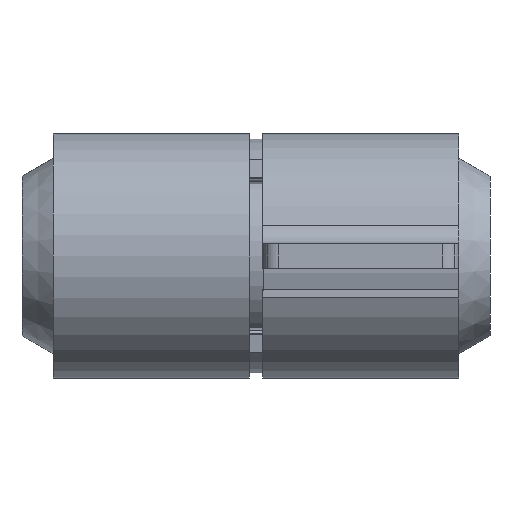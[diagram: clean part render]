
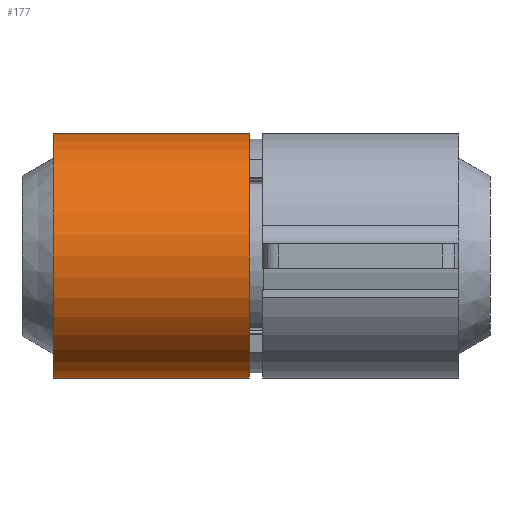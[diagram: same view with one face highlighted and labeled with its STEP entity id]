
A CAD part, front view. The second image highlights one B-rep face of the part: STEP entity #177.
In plain terms, the highlighted cylindrical face has radius 5.963 mm (diameter 11.925 mm), a partial arc.
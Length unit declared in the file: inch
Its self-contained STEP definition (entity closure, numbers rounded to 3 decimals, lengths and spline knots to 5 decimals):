
#177=ADVANCED_FACE('',(#388),#389,.T.);
#388=FACE_OUTER_BOUND('',#651,.T.);
#389=CYLINDRICAL_SURFACE('',#652,0.23474);
#651=EDGE_LOOP('',(#1054,#1055,#1056,#1057));
#652=AXIS2_PLACEMENT_3D('',#1058,#1059,#1060);
#1054=ORIENTED_EDGE('',*,*,#1638,.T.);
#1055=ORIENTED_EDGE('',*,*,#1588,.F.);
#1056=ORIENTED_EDGE('',*,*,#1639,.T.);
#1057=ORIENTED_EDGE('',*,*,#1552,.F.);
#1058=CARTESIAN_POINT('',(-9.26785,-4.,0.));
#1059=DIRECTION('',(-1.0,0.,0.));
#1060=DIRECTION('',(0.,0.,-1.0));
#1552=EDGE_CURVE('',#1858,#1860,#1861,.T.);
#1588=EDGE_CURVE('',#1920,#1922,#1923,.T.);
#1638=EDGE_CURVE('',#1858,#1922,#1998,.T.);
#1639=EDGE_CURVE('',#1920,#1860,#1999,.T.);
#1858=VERTEX_POINT('',#2278);
#1860=VERTEX_POINT('',#2280);
#1861=CIRCLE('',#2281,0.23474);
#1920=VERTEX_POINT('',#2352);
#1922=VERTEX_POINT('',#2354);
#1923=CIRCLE('',#2355,0.23474);
#1998=LINE('',#2447,#2448);
#1999=LINE('',#2449,#2450);
#2278=CARTESIAN_POINT('',(-9.26785,-4.,-0.23474));
#2280=CARTESIAN_POINT('',(-9.26785,-4.,0.23474));
#2281=AXIS2_PLACEMENT_3D('',#2743,#2744,#2745);
#2352=CARTESIAN_POINT('',(-8.89285,-4.,0.23474));
#2354=CARTESIAN_POINT('',(-8.89285,-4.,-0.23474));
#2355=AXIS2_PLACEMENT_3D('',#2809,#2810,#2811);
#2447=CARTESIAN_POINT('',(-9.26785,-4.,-0.23474));
#2448=VECTOR('',#2892,1.0);
#2449=CARTESIAN_POINT('',(-9.26785,-4.,0.23474));
#2450=VECTOR('',#2893,1.0);
#2743=CARTESIAN_POINT('',(-9.26785,-4.,0.));
#2744=DIRECTION('',(-1.0,0.,0.));
#2745=DIRECTION('',(0.,0.,-1.0));
#2809=CARTESIAN_POINT('',(-8.89285,-4.,0.));
#2810=DIRECTION('',(1.0,0.,0.));
#2811=DIRECTION('',(0.,0.,-1.0));
#2892=DIRECTION('',(1.0,0.,0.));
#2893=DIRECTION('',(-1.0,0.,0.));
